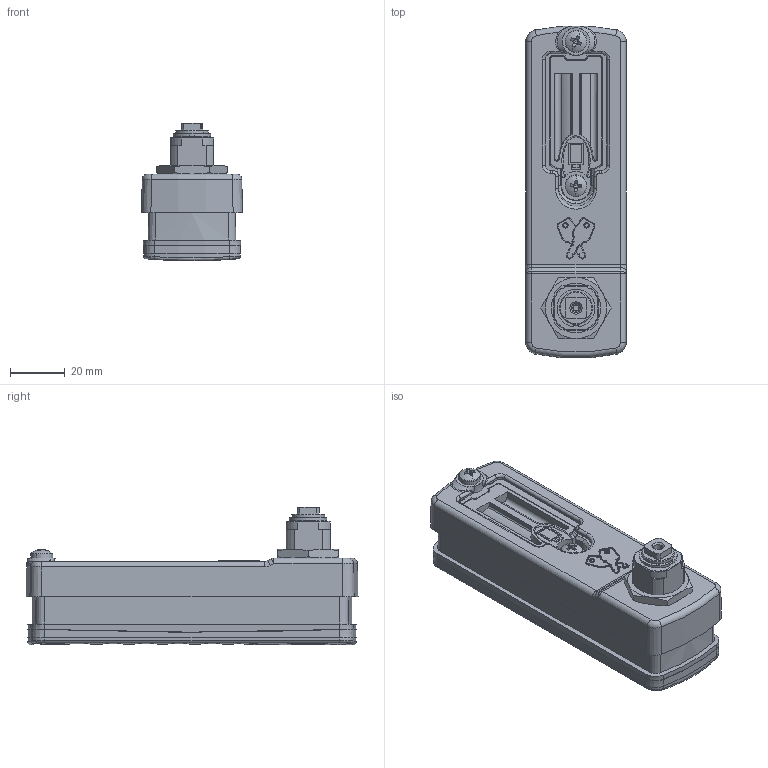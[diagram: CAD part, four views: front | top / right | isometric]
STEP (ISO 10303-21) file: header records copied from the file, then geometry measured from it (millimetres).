
FILE_DESCRIPTION (( 'STEP AP214' ), '1' );
FILE_NAME ('395013_Horizon_LH_Flush.STEP', '2019-02-27T11:30:52', ( '' ), ( '' ), 'SwSTEP 2.0', 'SolidWorks 2019', '' );
FILE_SCHEMA (( 'AUTOMOTIVE_DESIGN' ));
Length unit declared in the file: millimetre
Products named in the file (35): Pan Head Cross Recess Screw_BSI_BS EN ISO 7045 - M4 x 12 - Z - 12N; 9226538_M_Def; 8025063_def; 9226536_def; 8980203; M2400_SW12; 9226535_M_Def; 8600599_def; 8025062_def; Black_LH_L&F ; Pan Head Cross Recess Screw_BSI; 8025061_def; 8025066_def; CR123A; 9226537_def; CR123A_Standard; Pan Head Cross Recess Screw_BSI_BS EN ISO 7045 - M4 x 8 - Z - 8N; 9226539_def; 9226542_def; 395013_Horizon_LH_Flush
Assembly tree (17 placements, depth 2):
  8025063_def
  9226536_def
  8980203
  M2400_SW12
  9226535_M_Def
Bounding box: 36.69 x 120.83 x 50.04 mm (x, y, z)
Volume: 72674 mm3; surface area: 78045.5 mm2
Topology: 17 solids, 17 shells, 1632 faces, 4272 edges, 2753 vertices
Faces by surface type: plane 722, cylinder 317, cone 275, bspline 235, torus 75, sphere 8
Entity records: 69121 total; most frequent: CARTESIAN_POINT 26698, ORIENTED_EDGE 8528, DIRECTION 7162, EDGE_CURVE 4264, VERTEX_POINT 2753, AXIS2_PLACEMENT_3D 2526, LINE 2110, VECTOR 2110
